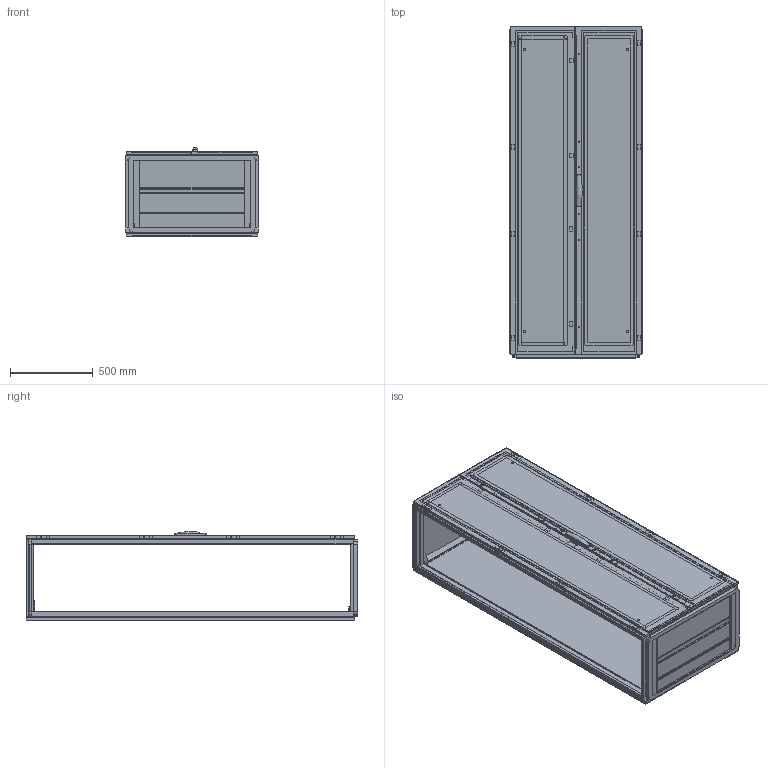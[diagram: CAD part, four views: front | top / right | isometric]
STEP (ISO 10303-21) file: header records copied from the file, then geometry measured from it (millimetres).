
FILE_DESCRIPTION(/* description */ ('STEP AP203'),/* implementation_level */ '2;1');
FILE_NAME(/* name */ 'MCD20085R5(0)',/* time_stamp */ '2024-02-21T04:39:40+01:00',/* author */ ('License CC BY-ND 4.0'),/* organization */ ('CADENAS'),/* preprocessor_version */ 'ST-DEVELOPER v19.3',/* originating_system */ 'PARTsolutions',/* authorisation */ ' ');
FILE_SCHEMA (('CONFIG_CONTROL_DESIGN'));
Length unit declared in the file: millimetre
Products named in the file (24): MCD20085R5(0); MCS20085R5_Frame; CRPK08(0)_Rear Panel Mounting Kit; CRP2008R5(0)_Rear Panel; DNMK02(0)_Hinge Right; DN2004RR5(0)_Right door; LSSDXXXX(0)_Lock; LSSD2000(0)_Espagnolette Top; LSSD2000(0)_Espagnolette Bottom; DNMK02(0)_Hinge Left; DN2004LR5(0)_Left door; LSEL2000(0)_Left Door Espagnolette; DNMK01(0)_Rod catches; CCR085R5(0)_Roof plate; LSSD2000(0)_Lock Catch; LSELXX08X(0)_Left Door Espagnolette; MPA06(0)_Mounting Plate Brackets 1; MP2008(0)_P1; MPA06(0)_Mounting Plate Brackets 2; MPA06(0)_Mounting Plate Brackets 3; MPA06(0)_Mounting Plate Brackets 4; CBPW800D200(0)_Bottom Plate 3; CBP080(0)_Bottom Plate 1; CBP080(0)_Bottom Plate 2
Assembly tree (41 placements, depth 2):
  MCD20085R5(0)
    MCS20085R5_Frame
    CRPK08(0)_Rear Panel Mounting Kit  x8
    CRP2008R5(0)_Rear Panel
    DNMK02(0)_Hinge Right  x4
    DN2004RR5(0)_Right door
    LSSDXXXX(0)_Lock
    LSSD2000(0)_Espagnolette Top
    LSSD2000(0)_Espagnolette Bottom
    DNMK02(0)_Hinge Left  x4
    DN2004LR5(0)_Left door
    LSEL2000(0)_Left Door Espagnolette
    DNMK01(0)_Rod catches  x4
    CCR085R5(0)_Roof plate
    LSSD2000(0)_Lock Catch  x2
    LSELXX08X(0)_Left Door Espagnolette  x2
    MPA06(0)_Mounting Plate Brackets 1
    MP2008(0)_P1
    MPA06(0)_Mounting Plate Brackets 2
    MPA06(0)_Mounting Plate Brackets 3
    MPA06(0)_Mounting Plate Brackets 4
    CBPW800D200(0)_Bottom Plate 3
    CBP080(0)_Bottom Plate 1
    CBP080(0)_Bottom Plate 2
Bounding box: 799 x 2003.5 x 534.9 mm (x, y, z)
Volume: 32436258.3 mm3; surface area: 14933921.5 mm2
Topology: 41 solids, 41 shells, 2026 faces, 5469 edges, 3607 vertices
Faces by surface type: plane 1768, cylinder 193, cone 62, sphere 2, torus 1
Full cylindrical faces by diameter (mm): 2.55 x2, 5 x26, 5.2 x2, 5.8 x2, 6 x6, 6.5 x2, 7 x6, 7.4 x4, 8 x20, 9 x2, 10 x12, 12.5 x1, 13 x3, 14 x6, 14.12 x1, 15 x4
Entity records: 49397 total; most frequent: CARTESIAN_POINT 8453, ORIENTED_EDGE 8048, DIRECTION 7551, EDGE_CURVE 4024, LINE 3619, VECTOR 3619, VERTEX_POINT 2718, AXIS2_PLACEMENT_3D 1966
